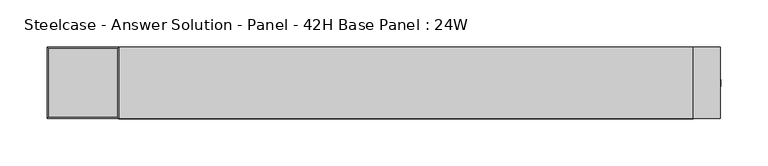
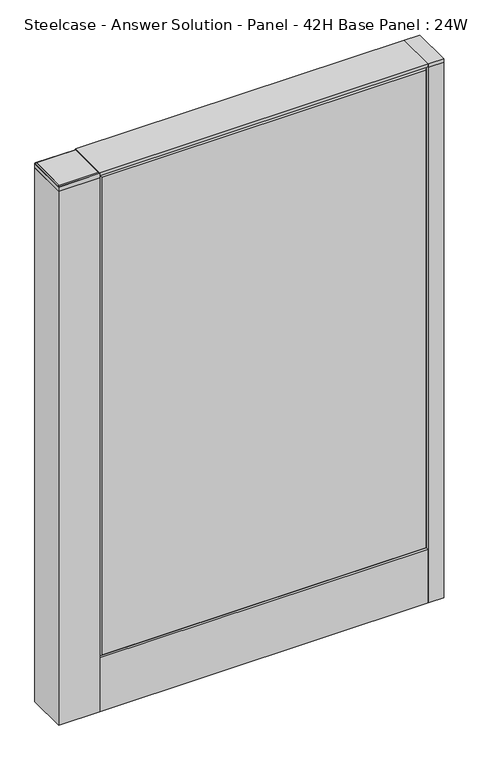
"""IFC4 building model written with IfcOpenShell, lengths in millimetres: furniture geometry, Steelcase - Answer Solution - Panel - 42H Base Panel : 24W."""

from ifc_helpers import new_model, si_unit, point, frame, frame_2d, origin, place, context, project, spatial, polyline, circle_curve, ellipse_curve, trimmed, segment, composite_curve, outline, extrude, faceted_brep, source, transform, mapped, element, save
from ifc_brep_helpers import plane_surface, cylinder_surface, advanced_brep


def steelcase_answer_solution_panel_42h_base_panel_24w_cc46b7b5(model_context):
    return source(origin(), model_context, "Body", "SolidModel", [
        extrude(outline(composite_curve([segment(trimmed(circle_curve(frame_2d((319.024, 0.0039657)), 5.08), [point((324.104, 0.0039657))], [point((313.944, 0.0039657))], False, "CARTESIAN"), True, "CONTINUOUS"), segment(trimmed(circle_curve(frame_2d((319.024, 0.0039657)), 5.08), [point((313.944, 0.0039657))], [point((324.104, 0.0039657))], False, "CARTESIAN"), True, "CONTINUOUS")], self_intersect=False)), frame((0.0, 0.0, 5.0799671), z_axis=(0.0, 0.0, 1.0), x_axis=(1.0, 0.0, 0.0)), (0.0, 0.0, 1.0), 10.414),
        extrude(outline(composite_curve([segment(trimmed(circle_curve(frame_2d((319.024, 0.0039657)), 15.24), [point((334.264, 0.0039657))], [point((303.784, 0.0039657))], False, "CARTESIAN"), True, "CONTINUOUS"), segment(trimmed(circle_curve(frame_2d((319.024, 0.0039657)), 15.24), [point((303.784, 0.0039657))], [point((334.264, 0.0039657))], False, "CARTESIAN"), True, "CONTINUOUS")], self_intersect=False)), frame((0.0, 0.0, -3.29e-05), z_axis=(0.0, 0.0, 1.0), x_axis=(1.0, 0.0, 0.0)), (0.0, 0.0, 1.0), 5.08),
        extrude(outline(polyline([(333.375, 38.1039851), (333.375, -38.0960149), (304.8, -38.0960149), (304.8, 38.1039851), (333.375, 38.1039851)])), frame((0.0, 0.0, 1065.8348), z_axis=(0.0, 0.0, 1.0), x_axis=(1.0, 0.0, 0.0)), (0.0, 0.0, 1.0), 7.3151671),
        extrude(outline(polyline([(333.375, 38.1039851), (333.375, -38.0960149), (304.8, -38.0960149), (304.8, 38.1039851), (333.375, 38.1039851)])), frame((0.0, 0.0, 15.4939671), z_axis=(0.0, 0.0, 1.0), x_axis=(1.0, 0.0, 0.0)), (0.0, 0.0, 1.0), 1050.3408329),
        extrude(outline(composite_curve([segment(trimmed(circle_curve(frame_2d((-342.9, 0.0039657)), 5.08), [point((-347.98, 0.0039657))], [point((-337.82, 0.0039657))], False, "CARTESIAN"), True, "CONTINUOUS"), segment(trimmed(circle_curve(frame_2d((-342.9, 0.0039657)), 5.08), [point((-337.82, 0.0039657))], [point((-347.98, 0.0039657))], False, "CARTESIAN"), True, "CONTINUOUS")], self_intersect=False)), frame((0.0, 0.0, 5.0799671), z_axis=(0.0, 0.0, 1.0), x_axis=(1.0, 0.0, 0.0)), (0.0, 0.0, 1.0), 10.414),
        extrude(outline(composite_curve([segment(trimmed(circle_curve(frame_2d((-342.9, 0.0039657)), 15.24), [point((-358.14, 0.0039657))], [point((-327.66, 0.0039657))], False, "CARTESIAN"), True, "CONTINUOUS"), segment(trimmed(circle_curve(frame_2d((-342.9, 0.0039657)), 15.24), [point((-327.66, 0.0039657))], [point((-358.14, 0.0039657))], False, "CARTESIAN"), True, "CONTINUOUS")], self_intersect=False)), frame((0.0, 0.0, -3.29e-05), z_axis=(0.0, 0.0, 1.0), x_axis=(1.0, 0.0, 0.0)), (0.0, 0.0, 1.0), 5.08),
        extrude(outline(polyline([(-304.8, -38.0705335), (-381.0, -38.0705335), (-381.0, 38.1103637), (-304.8, 38.1103637), (-304.8, -38.0705335)])), frame((0.0, 0.0, 1062.9899671), z_axis=(0.0, 0.0, 1.0), x_axis=(1.0, 0.0, 0.0)), (0.0, 0.0, 1.0), 8.2804329),
        extrude(outline(polyline([(-379.0950777, -36.1909437), (-379.0950777, 36.2307739), (-306.705076, 36.2307739), (-306.705076, -36.1909437), (-379.0950777, -36.1909437)])), frame((0.0, 0.0, 1071.2704), z_axis=(0.0, 0.0, 1.0), x_axis=(1.0, 0.0, 0.0)), (0.0, 0.0, 1.0), 1.8795671),
        advanced_brep(
        [(-379.0950777, 36.2307739, 1073.1499671), (-306.705076, 36.2307739, 1073.1499671), (-304.8001537, 38.1356962, 1071.2704), (-381.0, 38.1356962, 1071.2704), (-379.0950777, 36.2307739, 1071.2704), (-306.705076, 36.2307739, 1071.2704), (-306.705076, -36.1909437, 1073.1499671), (-304.8001537, -38.095866, 1071.2704), (-306.705076, -36.1909437, 1071.2704), (-379.0950777, -36.1909437, 1073.1499671), (-381.0, -38.095866, 1071.2704), (-379.0950777, -36.1909437, 1071.2704)],
        [
            (0, 1),
            (1, 2, ellipse_curve(frame((-306.6797434, 36.2561065, 1071.270548), z_axis=(-0.7071067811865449, 0.7071067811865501, 0.0), x_axis=(-0.7071067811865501, -0.7071067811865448, 0.0)), 2.6581413, 1.8795897)),
            (2, 3),
            (3, 0, ellipse_curve(frame((-379.1204103, 36.2561065, 1071.270548), z_axis=(0.7071067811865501, 0.7071067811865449, 0.0), x_axis=(-0.7071067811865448, 0.7071067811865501, 0.0)), 2.6581413, 1.8795897)),
            (4, 5),
            (5, 1),
            (0, 4),
            (1, 6),
            (6, 7, ellipse_curve(frame((-306.6797434, -36.2162763, 1071.270548), z_axis=(0.7071067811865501, 0.7071067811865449, 0.0), x_axis=(-0.7071067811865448, 0.7071067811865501, 0.0)), 2.6581413, 1.8795897)),
            (7, 2),
            (5, 8),
            (8, 6),
            (6, 9),
            (9, 10, ellipse_curve(frame((-379.1204103, -36.2162763, 1071.270548), z_axis=(0.7071067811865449, -0.7071067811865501, 0.0), x_axis=(0.7071067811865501, 0.7071067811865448, 0.0)), 2.6581413, 1.8795897)),
            (10, 7),
            (8, 11),
            (11, 9),
            (10, 3),
            (4, 11),
            (9, 0),
        ],
        [
            cylinder_surface(frame((-379.0950777, 36.2561065, 1071.270548), z_axis=(-1.0, 0.0, 0.0), x_axis=(0.0, -1.0, 0.0)), 1.8795897),
            plane_surface(frame((-379.0950777, 36.2307739, 1073.1499671), z_axis=(0.0, -1.0, 0.0), x_axis=(1.0, 0.0, 0.0))),
            cylinder_surface(frame((-306.6797434, 36.2307739, 1071.270548), z_axis=(0.0, 1.0, 0.0), x_axis=(-1.0, 0.0, 0.0)), 1.8795897),
            plane_surface(frame((-306.705076, 36.2307739, 1073.1499671), z_axis=(-1.0, 0.0, 0.0), x_axis=(0.0, -1.0, 0.0))),
            cylinder_surface(frame((-306.705076, -36.2162763, 1071.270548), z_axis=(1.0, 0.0, 0.0), x_axis=(0.0, 1.0, 0.0)), 1.8795897),
            plane_surface(frame((-306.705076, -36.1909437, 1073.1499671), z_axis=(0.0, 1.0, 0.0), x_axis=(-1.0, 0.0, 0.0))),
            plane_surface(frame((-379.0950777, -36.1909437, 1071.2704), z_axis=(0.0, 0.0, -1.0), x_axis=(0.0, 1.0, 0.0))),
            cylinder_surface(frame((-379.1204103, -36.1909437, 1071.270548), z_axis=(0.0, -1.0, 0.0), x_axis=(1.0, 0.0, 0.0)), 1.8795897),
            plane_surface(frame((-379.0950777, -36.1909437, 1073.1499671), z_axis=(1.0, 0.0, 0.0), x_axis=(0.0, 1.0, 0.0))),
        ],
        [
            (0, [[1, 2, 3, 4]]),
            (1, [[5, 6, -1, 7]]),
            (2, [[8, 9, 10, -2]]),
            (3, [[11, 12, -8, -6]]),
            (4, [[13, 14, 15, -9]]),
            (5, [[16, 17, -13, -12]]),
            (6, [[-3, -10, -15, 18], [-5, 19, -16, -11]]),
            (7, [[20, -4, -18, -14]]),
            (8, [[-19, -7, -20, -17]]),
        ],
    ),
        extrude(outline(polyline([(-381.0, 38.1039851), (-304.8, 38.1039851), (-304.8, -38.0960149), (-381.0, -38.0960149), (-381.0, 38.1039851)])), frame((0.0, 0.0, 15.4939671), z_axis=(0.0, 0.0, 1.0), x_axis=(1.0, 0.0, 0.0)), (0.0, 0.0, 1.0), 1047.496),
        faceted_brep([(-299.974, 38.1635011, 1061.974), (299.974, 38.1635011, 1061.974), (299.974, 38.1635011, 125.476), (-299.974, 38.1635011, 125.476), (-304.8, 33.3375011, 1066.8), (-304.8, 33.3375011, 120.65), (304.8, 33.3375011, 120.65), (304.8, 33.3375011, 1066.8)], [[[0, 1, 2, 3]], [[4, 5, 6, 7]], [[4, 7, 1, 0]], [[7, 6, 2, 1]], [[6, 5, 3, 2]], [[5, 4, 0, 3]]]),
        faceted_brep([(299.974, -38.1635011, 1061.974), (-299.974, -38.1635011, 1061.974), (-299.974, -38.1635011, 125.476), (299.974, -38.1635011, 125.476), (304.8, -33.3375011, 1066.8), (304.8, -33.3375011, 120.65), (-304.8, -33.3375011, 120.65), (-304.8, -33.3375011, 1066.8)], [[[0, 1, 2, 3]], [[4, 5, 6, 7]], [[4, 7, 1, 0]], [[7, 6, 2, 1]], [[6, 5, 3, 2]], [[5, 4, 0, 3]]]),
        extrude(outline(polyline([(304.8, 38.1000194), (304.8, -38.1000194), (-304.8, -38.1000194), (-304.8, 38.1000194), (304.8, 38.1000194)])), frame((0.0, 0.0, 1066.8), z_axis=(0.0, 0.0, 1.0), x_axis=(1.0, 0.0, 0.0)), (0.0, 0.0, 1.0), 6.35),
        extrude(outline(polyline([(25.4000011, 119.8575157), (25.4000011, 120.65), (38.1000194, 120.65), (38.1000194, 15.494), (37.3075215, 15.494), (37.3075215, 119.8575157), (25.4000011, 119.8575157)])), frame((-304.8, 0.0, 0.0), z_axis=(1.0, 0.0, 0.0), x_axis=(0.0, 1.0, 0.0)), (0.0, 0.0, 1.0), 609.6),
        extrude(outline(polyline([(-25.4000011, 119.8575157), (-37.3075215, 119.8575157), (-37.3075215, 15.494), (-38.1000194, 15.494), (-38.1000194, 120.65), (-25.4000011, 120.65), (-25.4000011, 119.8575157)])), frame((-304.8, 0.0, 0.0), z_axis=(1.0, 0.0, 0.0), x_axis=(0.0, 1.0, 0.0)), (0.0, 0.0, 1.0), 609.6),
    ])


if __name__ == "__main__":
    model = new_model("IFC4")
    model_context = context("Model", 3, world=origin())
    ifc_project = project(units=[si_unit("LENGTHUNIT", "METRE", prefix="MILLI")], contexts=[model_context])
    site = spatial("IfcSite", under=ifc_project)
    building = spatial("IfcBuilding", under=site)
    placement = place(None, origin())
    steelcase_answer_solution_panel_42h_base_panel_24w_shape = steelcase_answer_solution_panel_42h_base_panel_24w_cc46b7b5(model_context)
    element("IfcFurniture", 1, ObjectType="Steelcase - Answer Solution - Panel - 42H Base Panel : 24W", at=placement, inside=building, context=model_context, shape_type="MappedRepresentation", body=[
        mapped(steelcase_answer_solution_panel_42h_base_panel_24w_shape, transform((0.0, 0.0, 0.0), x_axis=(1.0, 0.0, 0.0), y_axis=(0.0, 1.0, 0.0), z_axis=(0.0, 0.0, 1.0))),
    ])
    save(model, "model.ifc")
